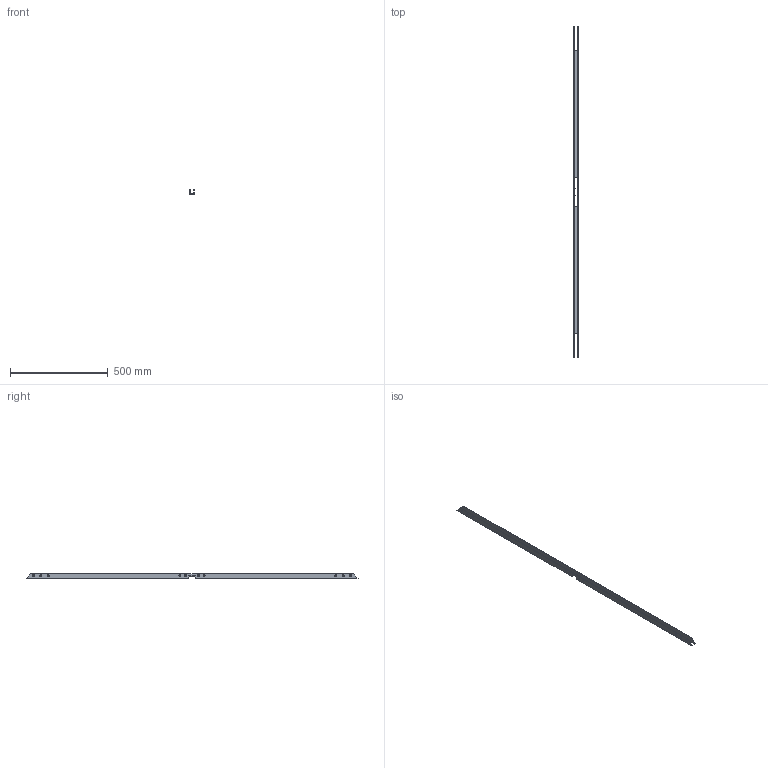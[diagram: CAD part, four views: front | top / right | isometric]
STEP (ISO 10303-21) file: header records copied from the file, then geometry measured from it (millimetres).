
FILE_DESCRIPTION(('FreeCAD Model'),'2;1');
FILE_NAME('Open CASCADE Shape Model','2026-10-06T09:33:39',('FreeCAD'),( 'FreeCAD'),'Open CASCADE STEP processor 7.8','FreeCAD','Unknown');
FILE_SCHEMA(('AUTOMOTIVE_DESIGN { 1 0 10303 214 1 1 1 1 }'));
Length unit declared in the file: millimetre
Products named in the file (1): Open CASCADE STEP translator 7.8 94
Bounding box: 25.4 x 1697.54 x 25.4 mm (x, y, z)
Volume: 344469.9 mm3; surface area: 231757.6 mm2
Topology: 1 solids, 1 shells, 56 faces, 158 edges, 102 vertices
Faces by surface type: plane 31, cylinder 15, cone 10
Full cylindrical faces by diameter (mm): 5.5 x10
Entity records: 1856 total; most frequent: CARTESIAN_POINT 317, ORIENTED_EDGE 316, DIRECTION 312, EDGE_CURVE 158, LINE 118, VECTOR 118, VERTEX_POINT 102, AXIS2_PLACEMENT_3D 97
